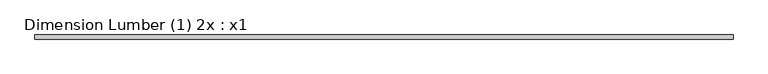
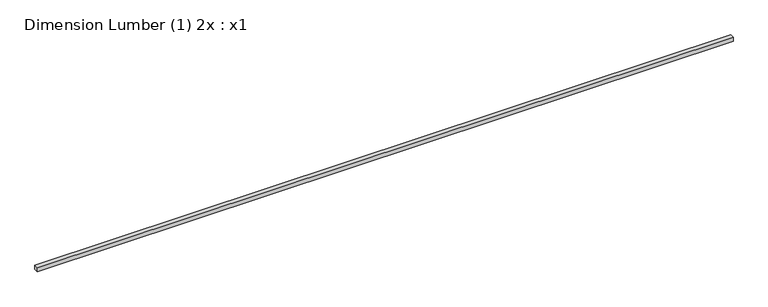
"""IFC4 building model written with IfcOpenShell, lengths in millimetres: beam geometry, Dimension Lumber (1) 2x : x1."""

from ifc_helpers import new_model, si_unit, frame, origin, place, context, project, spatial, polyline, outline, extrude, source, transform, mapped, element, save


def dimension_lumber_1_2x_x1_74f95edf(model_context):
    return source(origin(), model_context, "Body", "SweptSolid", [
        extrude(outline(polyline([(3200.4, 19.05), (3200.4, -19.05), (-3200.4, -19.05), (-3200.4, 19.05), (3200.4, 19.05)])), frame((0.0, 0.0, -19.05), z_axis=(0.0, 0.0, 1.0), x_axis=(1.0, 0.0, 0.0)), (0.0, 0.0, 1.0), 38.1),
    ])


if __name__ == "__main__":
    model = new_model("IFC4")
    model_context = context("Model", 3, world=origin())
    ifc_project = project(units=[si_unit("LENGTHUNIT", "METRE", prefix="MILLI")], contexts=[model_context])
    site = spatial("IfcSite", under=ifc_project)
    building = spatial("IfcBuilding", under=site)
    placement = place(None, origin())
    dimension_lumber_1_2x_x1_shape = dimension_lumber_1_2x_x1_74f95edf(model_context)
    element("IfcBeam", 1, ObjectType="Dimension Lumber (1) 2x : x1", at=placement, inside=building, context=model_context, shape_type="MappedRepresentation", body=[
        mapped(dimension_lumber_1_2x_x1_shape, transform((0.0, 0.0, 0.0), x_axis=(1.0, 0.0, 0.0), y_axis=(0.0, 1.0, 0.0), z_axis=(0.0, 0.0, 1.0))),
    ])
    save(model, "model.ifc")
